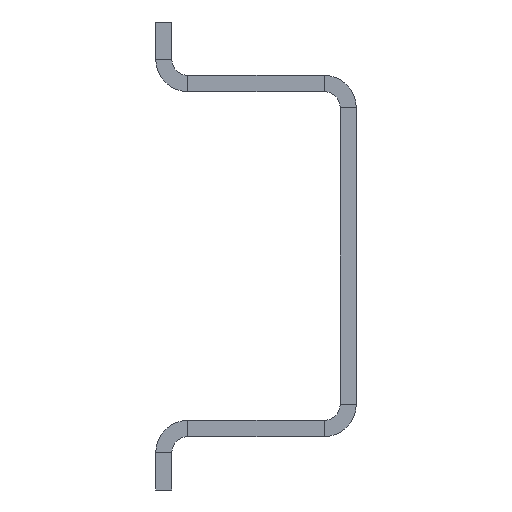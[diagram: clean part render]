
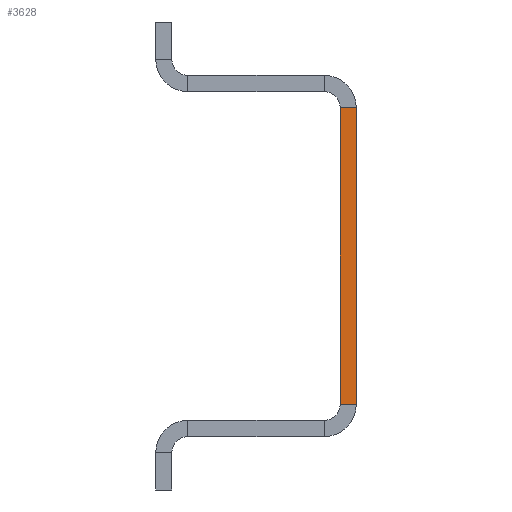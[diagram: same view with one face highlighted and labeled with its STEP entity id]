
A CAD part, left-side view. The second image highlights one B-rep face of the part: STEP entity #3628.
In plain terms, the highlighted planar face has unit normal (-1, 0, 0).
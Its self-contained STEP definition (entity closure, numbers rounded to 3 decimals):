
#128 = DIRECTION ( 'NONE',  ( 0., 0., 1. ) ) ;
#600 = VECTOR ( 'NONE', #673, 1000. ) ;
#673 = DIRECTION ( 'NONE',  ( 0., 0., -1. ) ) ;
#712 = CARTESIAN_POINT ( 'NONE',  ( -487.5, 0., 11.1 ) ) ;
#774 = CARTESIAN_POINT ( 'NONE',  ( -487.5, -1.2, 12.3 ) ) ;
#823 = EDGE_CURVE ( 'NONE', #4941, #5104, #3444, .T. ) ;
#1111 = PLANE ( 'NONE',  #4479 ) ;
#1235 = CARTESIAN_POINT ( 'NONE',  ( -487.5, 0., 12.3 ) ) ;
#1354 = VECTOR ( 'NONE', #3414, 1000. ) ;
#1463 = LINE ( 'NONE', #5820, #1354 ) ;
#1723 = VERTEX_POINT ( 'NONE', #2224 ) ;
#1794 = CARTESIAN_POINT ( 'NONE',  ( -487.5, -1.2, 11.1 ) ) ;
#1979 = CARTESIAN_POINT ( 'NONE',  ( -487.5, -1.2, 11.1 ) ) ;
#2186 = DIRECTION ( 'NONE',  ( 0., 0., -1. ) ) ;
#2223 = ORIENTED_EDGE ( 'NONE', *, *, #823, .T. ) ;
#2224 = CARTESIAN_POINT ( 'NONE',  ( -487.5, -1.2, -11.1 ) ) ;
#2252 = CARTESIAN_POINT ( 'NONE',  ( -487.5, 0., -11.1 ) ) ;
#2524 = FACE_OUTER_BOUND ( 'NONE', #6276, .T. ) ;
#2814 = LINE ( 'NONE', #1235, #600 ) ;
#3117 = CARTESIAN_POINT ( 'NONE',  ( -487.5, 1.2, -13.5 ) ) ;
#3316 = LINE ( 'NONE', #774, #5617 ) ;
#3414 = DIRECTION ( 'NONE',  ( 0., -1., 0. ) ) ;
#3444 = LINE ( 'NONE', #1794, #6242 ) ;
#3628 = ADVANCED_FACE ( 'NONE', ( #2524 ), #1111, .T. ) ;
#3769 = EDGE_CURVE ( 'NONE', #4941, #1723, #3316, .T. ) ;
#3777 = EDGE_CURVE ( 'NONE', #5104, #4500, #2814, .T. ) ;
#3851 = EDGE_CURVE ( 'NONE', #4500, #1723, #1463, .T. ) ;
#4479 = AXIS2_PLACEMENT_3D ( 'NONE', #3117, #6146, #128 ) ;
#4500 = VERTEX_POINT ( 'NONE', #2252 ) ;
#4941 = VERTEX_POINT ( 'NONE', #1979 ) ;
#4957 = ORIENTED_EDGE ( 'NONE', *, *, #3777, .T. ) ;
#5104 = VERTEX_POINT ( 'NONE', #712 ) ;
#5148 = ORIENTED_EDGE ( 'NONE', *, *, #3851, .T. ) ;
#5340 = ORIENTED_EDGE ( 'NONE', *, *, #3769, .F. ) ;
#5435 = DIRECTION ( 'NONE',  ( 0., 1., 0. ) ) ;
#5617 = VECTOR ( 'NONE', #2186, 1000. ) ;
#5820 = CARTESIAN_POINT ( 'NONE',  ( -487.5, 0., -11.1 ) ) ;
#6146 = DIRECTION ( 'NONE',  ( -1., 0., 0. ) ) ;
#6242 = VECTOR ( 'NONE', #5435, 1000. ) ;
#6276 = EDGE_LOOP ( 'NONE', ( #4957, #5148, #5340, #2223 ) ) ;
